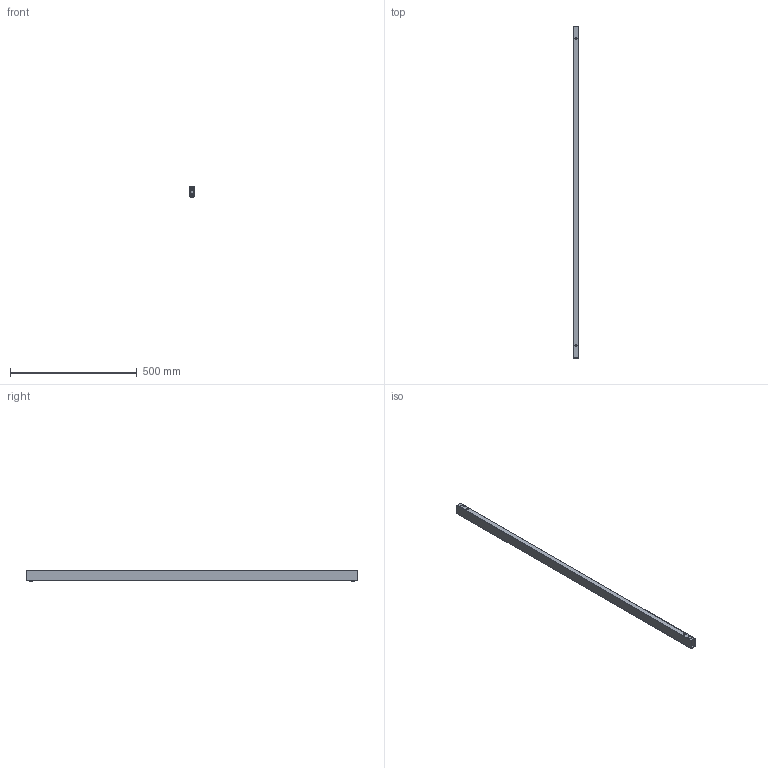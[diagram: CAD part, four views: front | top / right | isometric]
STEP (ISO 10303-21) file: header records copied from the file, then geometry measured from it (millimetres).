
FILE_DESCRIPTION( ( 'STEP AP214' ), '1' );
FILE_NAME( 'D:/Yug/2021/Delta/desk_and_office_organisation/QC/46013.stp', '2021-01-22T12:16:27', ( '' ), ( '' ), ' ', 'PARTsolutions', ' ' );
FILE_SCHEMA( ( 'AUTOMOTIVE_DESIGN { 1 0 10303 214 1 1 1 1 }' ) );
Length unit declared in the file: millimetre
Products named in the file (1): _46013
Bounding box: 20 x 1310 x 41.5 mm (x, y, z)
Volume: 233473.3 mm3; surface area: 302493.7 mm2
Topology: 1 solids, 1 shells, 24 faces, 62 edges, 42 vertices
Faces by surface type: cylinder 12, plane 12
Full cylindrical faces by diameter (mm): 8 x4, 8.3 x4, 12.5 x2, 14.5 x2
Entity records: 1448 total; most frequent: CARTESIAN_POINT 665, DIRECTION 106, ORIENTED_EDGE 96, EDGE_LOOP 60, EDGE_CURVE 48, AXIS2_PLACEMENT_3D 41, VERTEX_POINT 40, FACE_OUTER_BOUND 36
